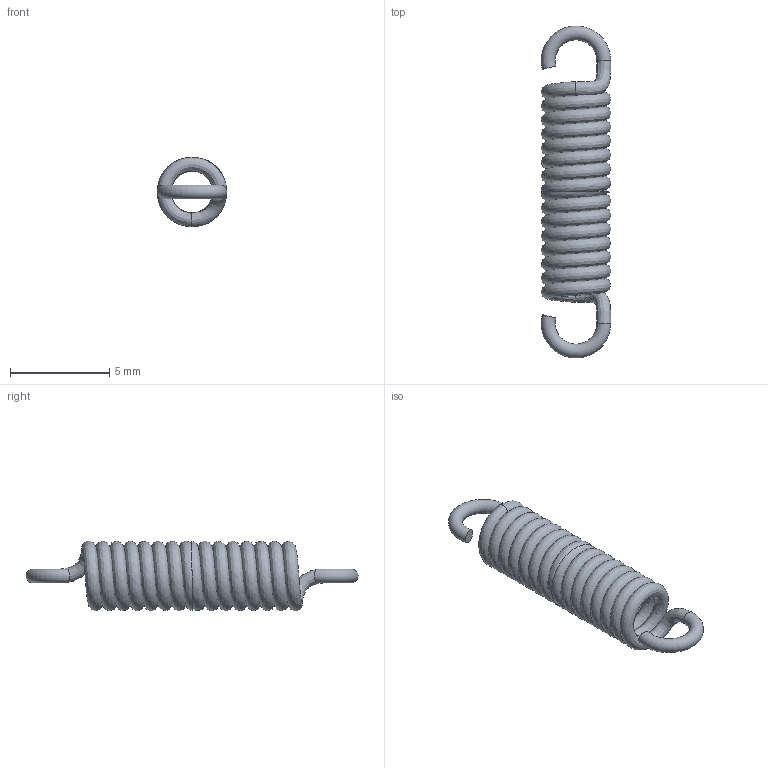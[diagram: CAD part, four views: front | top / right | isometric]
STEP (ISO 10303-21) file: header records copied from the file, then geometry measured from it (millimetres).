
FILE_DESCRIPTION(/* description */ ('25.6 | 5,79 | 0'),/* implementation_level */ '2;1');
FILE_NAME(/* name */ 'T20480.step',/* time_stamp */ '2026-10-05T10:08:55+02:00',/* author */ ('impex-ready.pl'),/* organization */ ('T20480'),/* preprocessor_version */ 'ST-DEVELOPER v20.1',/* originating_system */ 'Autodesk Inventor 2026',/* authorisation */ 'stal nierdzewna');
FILE_SCHEMA (('AUTOMOTIVE_DESIGN { 1 0 10303 214 3 1 1 }'));
Length unit declared in the file: millimetre
Products named in the file (1): T20480
Bounding box: 3.5 x 16.7 x 3.5 mm (x, y, z)
Volume: 56.2 mm3; surface area: 323.2 mm2
Topology: 1 solids, 1 shells, 10 faces, 34 edges, 22 vertices
Faces by surface type: plane 4, bspline 4, torus 2
Entity records: 3782 total; most frequent: CARTESIAN_POINT 3470, ORIENTED_EDGE 68, DIRECTION 42, EDGE_CURVE 34, VERTEX_POINT 22, AXIS2_PLACEMENT_3D 21, B_SPLINE_CURVE_WITH_KNOTS 20, CIRCLE 14
